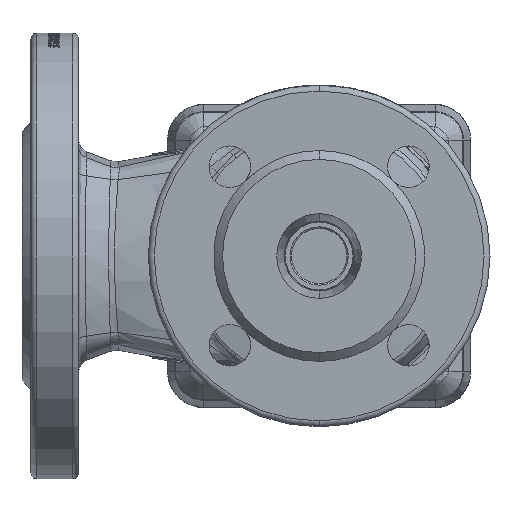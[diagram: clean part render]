
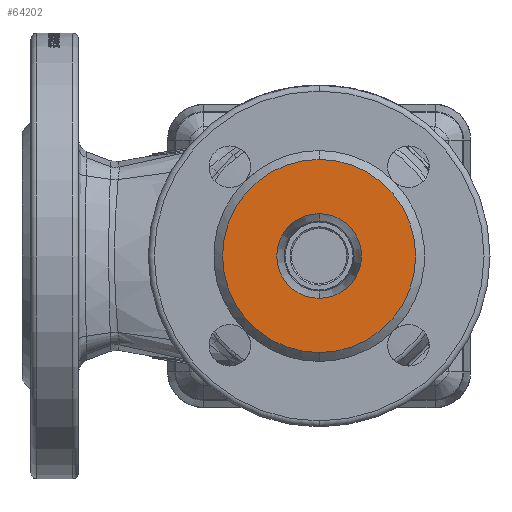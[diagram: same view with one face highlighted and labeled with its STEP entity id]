
A CAD part, front view. The second image highlights one B-rep face of the part: STEP entity #64202.
In plain terms, the highlighted planar face has unit normal (0, -1, 0).
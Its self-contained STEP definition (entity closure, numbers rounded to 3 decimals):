
#789 = AXIS2_PLACEMENT_3D ( 'NONE', #45378, #140924, #114877 ) ;
#3146 = CARTESIAN_POINT ( 'NONE',  ( 0., -105., -14.25 ) ) ;
#6996 = PLANE ( 'NONE',  #32733 ) ;
#10082 = DIRECTION ( 'NONE',  ( 0., 1., 0. ) ) ;
#14530 = AXIS2_PLACEMENT_3D ( 'NONE', #134188, #10082, #94815 ) ;
#15725 = CARTESIAN_POINT ( 'NONE',  ( 0., -105., -32.5 ) ) ;
#18591 = EDGE_CURVE ( 'NONE', #124745, #107792, #50340, .T. ) ;
#19784 = FACE_OUTER_BOUND ( 'NONE', #126274, .T. ) ;
#29710 = EDGE_CURVE ( 'NONE', #29755, #144335, #127671, .T. ) ;
#29755 = VERTEX_POINT ( 'NONE', #144620 ) ;
#32733 = AXIS2_PLACEMENT_3D ( 'NONE', #102664, #117144, #74887 ) ;
#38265 = DIRECTION ( 'NONE',  ( 0., 1., 0. ) ) ;
#38871 = CARTESIAN_POINT ( 'NONE',  ( 0., -105., 0. ) ) ;
#45378 = CARTESIAN_POINT ( 'NONE',  ( 0., -105., 0. ) ) ;
#50340 = CIRCLE ( 'NONE', #789, 14.25 ) ;
#53398 = DIRECTION ( 'NONE',  ( 0., 0., -1. ) ) ;
#61247 = CARTESIAN_POINT ( 'NONE',  ( 0., -105., 0. ) ) ;
#64202 = ADVANCED_FACE ( 'NONE', ( #19784, #134555 ), #6996, .T. ) ;
#64269 = ORIENTED_EDGE ( 'NONE', *, *, #79111, .F. ) ;
#67294 = CARTESIAN_POINT ( 'NONE',  ( 0., -105., 14.25 ) ) ;
#68723 = ORIENTED_EDGE ( 'NONE', *, *, #18591, .T. ) ;
#71389 = AXIS2_PLACEMENT_3D ( 'NONE', #38871, #38265, #53398 ) ;
#74887 = DIRECTION ( 'NONE',  ( 0., 0., -1. ) ) ;
#79111 = EDGE_CURVE ( 'NONE', #144335, #29755, #152134, .T. ) ;
#89580 = DIRECTION ( 'NONE',  ( 0., 1., 0. ) ) ;
#90497 = EDGE_LOOP ( 'NONE', ( #126608, #68723 ) ) ;
#94815 = DIRECTION ( 'NONE',  ( 0., 0., -1. ) ) ;
#98885 = ORIENTED_EDGE ( 'NONE', *, *, #29710, .F. ) ;
#102664 = CARTESIAN_POINT ( 'NONE',  ( 0., -105., 0. ) ) ;
#107792 = VERTEX_POINT ( 'NONE', #67294 ) ;
#114877 = DIRECTION ( 'NONE',  ( 0., 0., -1. ) ) ;
#117144 = DIRECTION ( 'NONE',  ( 0., -1., 0. ) ) ;
#124745 = VERTEX_POINT ( 'NONE', #3146 ) ;
#126274 = EDGE_LOOP ( 'NONE', ( #98885, #64269 ) ) ;
#126608 = ORIENTED_EDGE ( 'NONE', *, *, #169541, .T. ) ;
#127671 = CIRCLE ( 'NONE', #135680, 32.5 ) ;
#130144 = DIRECTION ( 'NONE',  ( 0., 0., -1. ) ) ;
#134188 = CARTESIAN_POINT ( 'NONE',  ( 0., -105., 0. ) ) ;
#134555 = FACE_BOUND ( 'NONE', #90497, .T. ) ;
#135680 = AXIS2_PLACEMENT_3D ( 'NONE', #61247, #89580, #130144 ) ;
#140924 = DIRECTION ( 'NONE',  ( 0., 1., 0. ) ) ;
#144335 = VERTEX_POINT ( 'NONE', #15725 ) ;
#144620 = CARTESIAN_POINT ( 'NONE',  ( 0., -105., 32.5 ) ) ;
#152134 = CIRCLE ( 'NONE', #71389, 32.5 ) ;
#167663 = CIRCLE ( 'NONE', #14530, 14.25 ) ;
#169541 = EDGE_CURVE ( 'NONE', #107792, #124745, #167663, .T. ) ;
